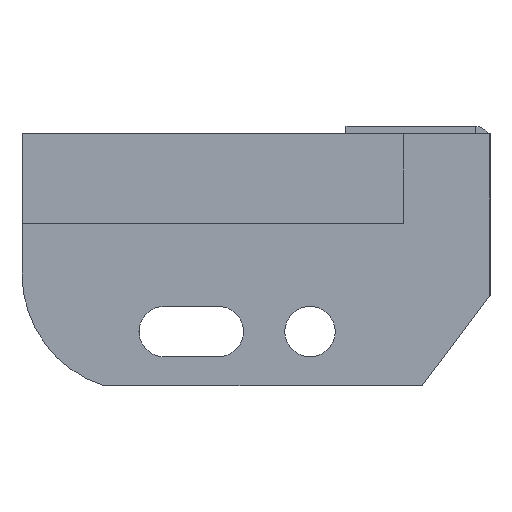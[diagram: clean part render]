
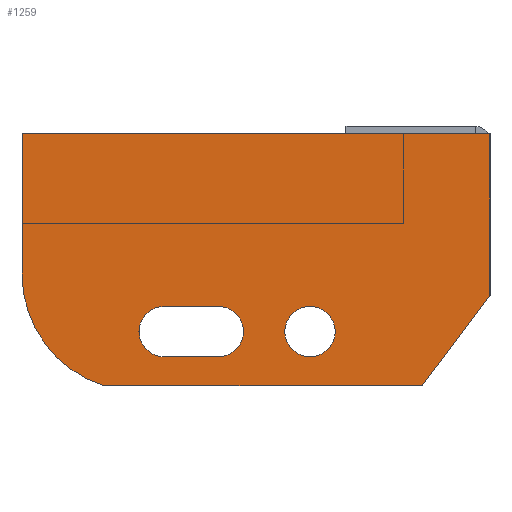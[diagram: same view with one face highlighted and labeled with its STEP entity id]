
A CAD part, left-side view. The second image highlights one B-rep face of the part: STEP entity #1259.
In plain terms, the highlighted planar face has unit normal (-1, 0, 0) as drawn and (0, 0, 1) by its records, which use the part's own axes.
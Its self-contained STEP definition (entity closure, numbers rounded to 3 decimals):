
#61 = EDGE_CURVE ( 'NONE', #1897, #1765, #1185, .T. ) ;
#63 = DIRECTION ( 'NONE',  ( 0., -1., 0. ) ) ;
#72 = CARTESIAN_POINT ( 'NONE',  ( -130., 0., 3. ) ) ;
#111 = ORIENTED_EDGE ( 'NONE', *, *, #61, .F. ) ;
#128 = LINE ( 'NONE', #1545, #703 ) ;
#136 = VERTEX_POINT ( 'NONE', #1211 ) ;
#143 = VERTEX_POINT ( 'NONE', #274 ) ;
#148 = EDGE_CURVE ( 'NONE', #1755, #437, #1830, .T. ) ;
#153 = CIRCLE ( 'NONE', #772, 7. ) ;
#160 = LINE ( 'NONE', #780, #1594 ) ;
#187 = CARTESIAN_POINT ( 'NONE',  ( -75.5, -48., 3. ) ) ;
#207 = CARTESIAN_POINT ( 'NONE',  ( -97.5, -39., 3. ) ) ;
#248 = DIRECTION ( 'NONE',  ( 0., 0., 1. ) ) ;
#254 = EDGE_LOOP ( 'NONE', ( #1380, #499, #111, #1990, #1729 ) ) ;
#274 = CARTESIAN_POINT ( 'NONE',  ( -43., -55., 3. ) ) ;
#285 = AXIS2_PLACEMENT_3D ( 'NONE', #207, #532, #1797 ) ;
#305 = LINE ( 'NONE', #2014, #486 ) ;
#325 = EDGE_CURVE ( 'NONE', #1425, #1897, #648, .T. ) ;
#391 = ORIENTED_EDGE ( 'NONE', *, *, #1190, .T. ) ;
#418 = CARTESIAN_POINT ( 'NONE',  ( 0., 0., 3. ) ) ;
#429 = FACE_BOUND ( 'NONE', #1378, .T. ) ;
#433 = CARTESIAN_POINT ( 'NONE',  ( -130., -39., 3. ) ) ;
#437 = VERTEX_POINT ( 'NONE', #943 ) ;
#439 = DIRECTION ( 'NONE',  ( 1., 0., 0. ) ) ;
#452 = VECTOR ( 'NONE', #904, 1000. ) ;
#486 = VECTOR ( 'NONE', #1051, 1000. ) ;
#499 = ORIENTED_EDGE ( 'NONE', *, *, #1826, .F. ) ;
#532 = DIRECTION ( 'NONE',  ( 0., 0., 1. ) ) ;
#596 = CARTESIAN_POINT ( 'NONE',  ( -90.5, -62., 3. ) ) ;
#612 = ORIENTED_EDGE ( 'NONE', *, *, #1036, .T. ) ;
#624 = VECTOR ( 'NONE', #1054, 1000. ) ;
#633 = DIRECTION ( 'NONE',  ( 1., 0., 0. ) ) ;
#648 = LINE ( 'NONE', #960, #957 ) ;
#677 = EDGE_CURVE ( 'NONE', #1224, #136, #305, .T. ) ;
#703 = VECTOR ( 'NONE', #1354, 1000. ) ;
#705 = CIRCLE ( 'NONE', #1951, 7. ) ;
#741 = CARTESIAN_POINT ( 'NONE',  ( -90.5, -55., 3. ) ) ;
#772 = AXIS2_PLACEMENT_3D ( 'NONE', #741, #1997, #2006 ) ;
#780 = CARTESIAN_POINT ( 'NONE',  ( 0., 0., 3. ) ) ;
#799 = VERTEX_POINT ( 'NONE', #433 ) ;
#806 = CIRCLE ( 'NONE', #1335, 7. ) ;
#807 = DIRECTION ( 'NONE',  ( -1., 0., 0. ) ) ;
#812 = CIRCLE ( 'NONE', #1072, 7. ) ;
#849 = CARTESIAN_POINT ( 'NONE',  ( -75.5, -55., 3. ) ) ;
#855 = EDGE_CURVE ( 'NONE', #136, #1264, #128, .T. ) ;
#870 = CARTESIAN_POINT ( 'NONE',  ( 0., -45., 3. ) ) ;
#904 = DIRECTION ( 'NONE',  ( -1., 0., 0. ) ) ;
#914 = CARTESIAN_POINT ( 'NONE',  ( -107.26, -70., 3. ) ) ;
#943 = CARTESIAN_POINT ( 'NONE',  ( -75.5, -62., 3. ) ) ;
#955 = DIRECTION ( 'NONE',  ( 0., 0., 1. ) ) ;
#957 = VECTOR ( 'NONE', #807, 1000. ) ;
#960 = CARTESIAN_POINT ( 'NONE',  ( -90.5, -48., 3. ) ) ;
#971 = AXIS2_PLACEMENT_3D ( 'NONE', #1226, #248, #439 ) ;
#1016 = DIRECTION ( 'NONE',  ( 1., 0., 0. ) ) ;
#1025 = CARTESIAN_POINT ( 'NONE',  ( -90.5, -62., 3. ) ) ;
#1036 = EDGE_CURVE ( 'NONE', #799, #1224, #1760, .T. ) ;
#1049 = DIRECTION ( 'NONE',  ( 0., 0., 1. ) ) ;
#1051 = DIRECTION ( 'NONE',  ( 1., 0., 0. ) ) ;
#1054 = DIRECTION ( 'NONE',  ( 1., 0., 0. ) ) ;
#1066 = ORIENTED_EDGE ( 'NONE', *, *, #1344, .F. ) ;
#1072 = AXIS2_PLACEMENT_3D ( 'NONE', #1512, #1049, #1533 ) ;
#1073 = ORIENTED_EDGE ( 'NONE', *, *, #677, .T. ) ;
#1081 = CARTESIAN_POINT ( 'NONE',  ( -90.5, -48., 3. ) ) ;
#1084 = CARTESIAN_POINT ( 'NONE',  ( -50., -55., 3. ) ) ;
#1103 = VERTEX_POINT ( 'NONE', #1813 ) ;
#1115 = DIRECTION ( 'NONE',  ( 0., 1., 0. ) ) ;
#1172 = EDGE_LOOP ( 'NONE', ( #1856, #391, #1450, #612, #1073, #1358 ) ) ;
#1173 = DIRECTION ( 'NONE',  ( 1., 0., 0. ) ) ;
#1185 = CIRCLE ( 'NONE', #1217, 7. ) ;
#1190 = EDGE_CURVE ( 'NONE', #1519, #1683, #1665, .T. ) ;
#1211 = CARTESIAN_POINT ( 'NONE',  ( -18.839, -70., 3. ) ) ;
#1212 = CARTESIAN_POINT ( 'NONE',  ( -97.5, -55., 3. ) ) ;
#1217 = AXIS2_PLACEMENT_3D ( 'NONE', #1488, #1472, #1016 ) ;
#1224 = VERTEX_POINT ( 'NONE', #914 ) ;
#1226 = CARTESIAN_POINT ( 'NONE',  ( -97.5, -39., 3. ) ) ;
#1236 = VECTOR ( 'NONE', #63, 1000. ) ;
#1239 = EDGE_CURVE ( 'NONE', #143, #1103, #812, .T. ) ;
#1259 = ADVANCED_FACE ( 'NONE', ( #1834, #429, #1684 ), #1653, .T. ) ;
#1264 = VERTEX_POINT ( 'NONE', #870 ) ;
#1290 = DIRECTION ( 'NONE',  ( 0., 0., 1. ) ) ;
#1335 = AXIS2_PLACEMENT_3D ( 'NONE', #1084, #955, #633 ) ;
#1344 = EDGE_CURVE ( 'NONE', #1103, #143, #806, .T. ) ;
#1354 = DIRECTION ( 'NONE',  ( 0.602, 0.799, 0. ) ) ;
#1358 = ORIENTED_EDGE ( 'NONE', *, *, #855, .T. ) ;
#1378 = EDGE_LOOP ( 'NONE', ( #1066, #1843 ) ) ;
#1380 = ORIENTED_EDGE ( 'NONE', *, *, #148, .F. ) ;
#1425 = VERTEX_POINT ( 'NONE', #187 ) ;
#1450 = ORIENTED_EDGE ( 'NONE', *, *, #1577, .T. ) ;
#1466 = EDGE_CURVE ( 'NONE', #1264, #1519, #160, .T. ) ;
#1472 = DIRECTION ( 'NONE',  ( 0., 0., 1. ) ) ;
#1488 = CARTESIAN_POINT ( 'NONE',  ( -90.5, -55., 3. ) ) ;
#1489 = CARTESIAN_POINT ( 'NONE',  ( -130., 0., 3. ) ) ;
#1512 = CARTESIAN_POINT ( 'NONE',  ( -50., -55., 3. ) ) ;
#1519 = VERTEX_POINT ( 'NONE', #1944 ) ;
#1528 = EDGE_CURVE ( 'NONE', #437, #1425, #705, .T. ) ;
#1533 = DIRECTION ( 'NONE',  ( 1., 0., 0. ) ) ;
#1545 = CARTESIAN_POINT ( 'NONE',  ( 0., -45., 3. ) ) ;
#1577 = EDGE_CURVE ( 'NONE', #1683, #799, #1917, .T. ) ;
#1594 = VECTOR ( 'NONE', #1115, 1000. ) ;
#1653 = PLANE ( 'NONE',  #971 ) ;
#1665 = LINE ( 'NONE', #418, #452 ) ;
#1683 = VERTEX_POINT ( 'NONE', #1489 ) ;
#1684 = FACE_BOUND ( 'NONE', #254, .T. ) ;
#1729 = ORIENTED_EDGE ( 'NONE', *, *, #1528, .F. ) ;
#1755 = VERTEX_POINT ( 'NONE', #1025 ) ;
#1760 = CIRCLE ( 'NONE', #285, 32.5 ) ;
#1765 = VERTEX_POINT ( 'NONE', #1212 ) ;
#1797 = DIRECTION ( 'NONE',  ( 1., 0., 0. ) ) ;
#1813 = CARTESIAN_POINT ( 'NONE',  ( -57., -55., 3. ) ) ;
#1826 = EDGE_CURVE ( 'NONE', #1765, #1755, #153, .T. ) ;
#1830 = LINE ( 'NONE', #596, #624 ) ;
#1834 = FACE_OUTER_BOUND ( 'NONE', #1172, .T. ) ;
#1843 = ORIENTED_EDGE ( 'NONE', *, *, #1239, .F. ) ;
#1856 = ORIENTED_EDGE ( 'NONE', *, *, #1466, .T. ) ;
#1897 = VERTEX_POINT ( 'NONE', #1081 ) ;
#1917 = LINE ( 'NONE', #72, #1236 ) ;
#1944 = CARTESIAN_POINT ( 'NONE',  ( 0., 0., 3. ) ) ;
#1951 = AXIS2_PLACEMENT_3D ( 'NONE', #849, #1290, #1173 ) ;
#1990 = ORIENTED_EDGE ( 'NONE', *, *, #325, .F. ) ;
#1997 = DIRECTION ( 'NONE',  ( 0., 0., 1. ) ) ;
#2006 = DIRECTION ( 'NONE',  ( 1., 0., 0. ) ) ;
#2014 = CARTESIAN_POINT ( 'NONE',  ( -18.839, -70., 3. ) ) ;
